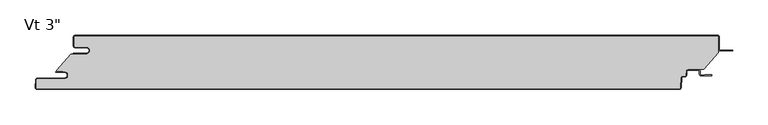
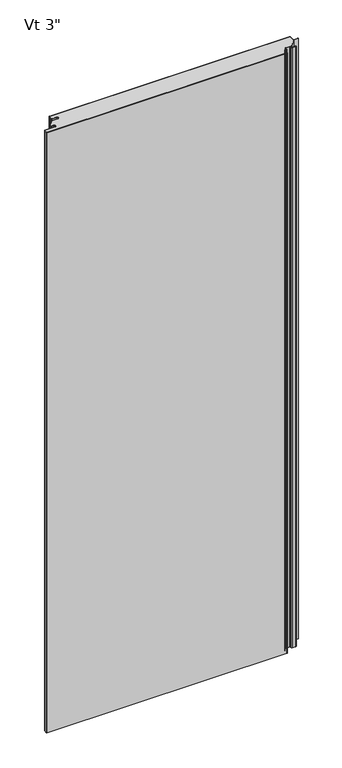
"""IFC4 building model written with IfcOpenShell, lengths in millimetres: plate geometry."""

from ifc_helpers import new_model, si_unit, point, frame, frame_2d, origin, origin_with_axes, place, context, project, spatial, polyline, circle_curve, ellipse_curve, trimmed, segment, composite_curve, outline, extrude, source, transform, mapped, element, save
from ifc_brep_helpers import plane_surface, cylinder_surface, revolved_surface, extruded_surface, advanced_brep


def plate_b2574253(model_context):
    return source(origin(), model_context, "Body", "SolidModel", [
        extrude(outline(composite_curve([segment(polyline([(-438.14375, -16.4625), (-454.01875, -16.4625)]), True, "CONTINUOUS"), segment(trimmed(circle_curve(frame_2d((-454.01875, -15.08125)), 1.38125), [point((-454.01875, -16.4625))], [point((-455.4, -15.08125))], False, "CARTESIAN"), True, "CONTINUOUS"), segment(polyline([(-455.4, -15.08125), (-455.4, -2.38125)]), True, "CONTINUOUS"), segment(trimmed(circle_curve(frame_2d((-454.01875, -2.38125)), 1.38125), [point((-455.4, -2.38125))], [point((-454.01875, -1.0))], False, "CARTESIAN"), True, "CONTINUOUS"), segment(polyline([(-454.01875, -1.0), (454.03125, -1.0)]), True, "CONTINUOUS"), segment(trimmed(circle_curve(frame_2d((454.03125, -2.38125)), 1.38125), [point((454.03125, -1.0))], [point((455.4125, -2.38125))], False, "CARTESIAN"), True, "CONTINUOUS"), segment(polyline([(455.4125, -2.38125), (455.4125, -24.9057308), (434.5955434, -48.2125), (412.1540783, -48.2125)]), True, "CONTINUOUS"), segment(trimmed(circle_curve(frame_2d((412.1540783, -50.8)), 2.5875), [point((412.1540783, -48.2125))], [point((409.5701244, -50.6645807))], True, "CARTESIAN"), True, "CONTINUOUS"), segment(polyline([(409.5701244, -50.6645807), (409.2680481, -56.428539)]), True, "CONTINUOUS"), segment(trimmed(circle_curve(frame_2d((407.8886911, -56.35625)), 1.38125), [point((409.2680481, -56.428539))], [point((407.8886911, -57.7375))], False, "CARTESIAN"), True, "CONTINUOUS"), segment(polyline([(407.8886911, -57.7375), (404.8448847, -57.7375)]), True, "CONTINUOUS"), segment(trimmed(circle_curve(frame_2d((404.8448847, -60.325)), 2.5875), [point((404.8448847, -57.7375))], [point((402.2609307, -60.1895807))], True, "CARTESIAN"), True, "CONTINUOUS"), segment(polyline([(402.2609307, -60.1895807), (401.5428677, -73.891039)]), True, "CONTINUOUS"), segment(trimmed(circle_curve(frame_2d((400.1635107, -73.81875)), 1.38125), [point((401.5428677, -73.891039))], [point((400.1635107, -75.2))], False, "CARTESIAN"), True, "CONTINUOUS"), segment(polyline([(400.1635107, -75.2), (-507.8799535, -75.2)]), True, "CONTINUOUS"), segment(trimmed(circle_curve(frame_2d((-507.8799535, -73.81875)), 1.38125), [point((-507.8799535, -75.2))], [point((-509.2593106, -73.746461))], False, "CARTESIAN"), True, "CONTINUOUS"), segment(polyline([(-509.2593106, -73.746461), (-508.6769291, -62.633961)]), True, "CONTINUOUS"), segment(trimmed(circle_curve(frame_2d((-507.2975721, -62.70625)), 1.38125), [point((-508.6769291, -62.633961))], [point((-507.2975721, -61.325))], False, "CARTESIAN"), True, "CONTINUOUS"), segment(polyline([(-507.2975721, -61.325), (-469.1142674, -61.325)]), True, "CONTINUOUS"), segment(trimmed(circle_curve(frame_2d((-469.1142674, -56.35625)), 4.96875), [point((-469.1142674, -61.325))], [point((-469.1142674, -51.3875))], True, "CARTESIAN"), True, "CONTINUOUS"), segment(polyline([(-469.1142674, -51.3875), (-470.7017674, -51.59375), (-470.7017674, -50.8), (-480.2125, -50.8), (-480.2125, -49.2157227), (-460.3260922, -26.4), (-438.14375, -26.4)]), True, "CONTINUOUS"), segment(trimmed(circle_curve(frame_2d((-438.14375, -21.43125)), 4.96875), [point((-438.14375, -26.4))], [point((-438.14375, -16.4625))], True, "CARTESIAN"), True, "CONTINUOUS")], self_intersect=False)), origin_with_axes(), (0.0, 0.0, 1.0), 2400.0),
        extrude(outline(composite_curve([segment(polyline([(-456.4, -25.4), (-438.14375, -25.4)]), True, "CONTINUOUS"), segment(trimmed(circle_curve(frame_2d((-438.14375, -21.43125)), 3.96875), [point((-438.14375, -25.4))], [point((-438.14375, -17.4625))], True, "CARTESIAN"), True, "CONTINUOUS"), segment(polyline([(-438.14375, -17.4625), (-454.01875, -17.4625)]), True, "CONTINUOUS"), segment(trimmed(circle_curve(frame_2d((-454.01875, -15.08125)), 2.38125), [point((-454.01875, -17.4625))], [point((-456.4, -15.08125))], False, "CARTESIAN"), True, "CONTINUOUS"), segment(polyline([(-456.4, -15.08125), (-456.4, -2.38125)]), True, "CONTINUOUS"), segment(trimmed(circle_curve(frame_2d((-454.01875, -2.38125)), 2.38125), [point((-456.4, -2.38125))], [point((-454.01875, 0.0))], False, "CARTESIAN"), True, "CONTINUOUS"), segment(polyline([(-454.01875, 0.0), (454.03125, 0.0)]), True, "CONTINUOUS"), segment(trimmed(circle_curve(frame_2d((454.03125, -2.38125)), 2.38125), [point((454.03125, 0.0))], [point((456.4125, -2.38125))], False, "CARTESIAN"), True, "CONTINUOUS"), segment(polyline([(456.4125, -2.38125), (456.4125, -19.446875)]), True, "CONTINUOUS"), segment(trimmed(circle_curve(frame_2d((458.0, -19.446875)), 1.5875), [point((456.4125, -19.446875))], [point((458.0, -21.034375))], True, "CARTESIAN"), True, "CONTINUOUS"), segment(polyline([(458.0, -21.034375), (475.4625, -21.034375), (475.4625, -22.034375), (458.0, -22.034375)]), True, "CONTINUOUS"), segment(trimmed(circle_curve(frame_2d((458.0, -19.446875)), 2.5875), [point((458.0, -22.034375))], [point((455.4125, -19.446875))], False, "CARTESIAN"), True, "CONTINUOUS"), segment(polyline([(455.4125, -19.446875), (455.4125, -2.38125)]), True, "CONTINUOUS"), segment(trimmed(circle_curve(frame_2d((454.03125, -2.38125)), 1.38125), [point((455.4125, -2.38125))], [point((454.03125, -1.0))], True, "CARTESIAN"), True, "CONTINUOUS"), segment(polyline([(454.03125, -1.0), (-454.01875, -1.0)]), True, "CONTINUOUS"), segment(trimmed(circle_curve(frame_2d((-454.01875, -2.38125)), 1.38125), [point((-454.01875, -1.0))], [point((-455.4, -2.38125))], True, "CARTESIAN"), True, "CONTINUOUS"), segment(polyline([(-455.4, -2.38125), (-455.4, -15.08125)]), True, "CONTINUOUS"), segment(trimmed(circle_curve(frame_2d((-454.01875, -15.08125)), 1.38125), [point((-455.4, -15.08125))], [point((-454.01875, -16.4625))], True, "CARTESIAN"), True, "CONTINUOUS"), segment(polyline([(-454.01875, -16.4625), (-438.14375, -16.4625)]), True, "CONTINUOUS"), segment(trimmed(circle_curve(frame_2d((-438.14375, -21.43125)), 4.96875), [point((-438.14375, -16.4625))], [point((-438.14375, -26.4))], False, "CARTESIAN"), True, "CONTINUOUS"), segment(polyline([(-438.14375, -26.4), (-456.4, -26.4), (-456.4, -25.4)]), True, "CONTINUOUS")], self_intersect=False)), origin_with_axes(), (0.0, 0.0, 1.0), 2400.0),
        advanced_brep(
        [(-480.4252049, -50.8, 2400.0), (-480.4252049, -52.3875, 2400.0), (-469.1142674, -52.3875, 2400.0), (-469.1142674, -60.325, 2400.0), (-507.2975721, -60.325, 2400.0), (-509.6755586, -62.581625, 2400.0), (-510.2579401, -73.694125, 2400.0), (-507.8799535, -76.2, 2400.0), (400.1635107, -76.2, 2400.0), (402.5414973, -73.943375, 2400.0), (403.2595603, -60.2419167, 2400.0), (404.8448847, -58.7375, 2400.0), (407.8886911, -58.7375, 2400.0), (410.2666776, -56.480875, 2400.0), (410.5687539, -50.7169167, 2400.0), (412.1540783, -49.2125, 2400.0), (427.0294826, -49.2125, 2400.0), (428.6169826, -50.8, 2400.0), (428.6169826, -54.9671875, 2400.0), (430.9982326, -57.3484375, 2400.0), (445.4898532, -57.3484375, 2400.0), (445.4898532, -55.5546875, 2400.0), (435.7607326, -55.5546875, 2400.0), (435.7607326, -56.3484375, 2400.0), (430.9982326, -56.3484375, 2400.0), (429.6169826, -54.9671875, 2400.0), (429.6169826, -50.8, 2400.0), (427.0294826, -48.2125, 2400.0), (412.1540783, -48.2125, 2400.0), (409.5701244, -50.6645807, 2400.0), (409.2680481, -56.428539, 2400.0), (407.8886911, -57.7375, 2400.0), (404.8448847, -57.7375, 2400.0), (402.2609307, -60.1895807, 2400.0), (401.5428677, -73.891039, 2400.0), (400.1635107, -75.2, 2400.0), (-507.8799535, -75.2, 2400.0), (-509.2593106, -73.746461, 2400.0), (-508.6769291, -62.633961, 2400.0), (-507.2975721, -61.325, 2400.0), (-469.1142674, -61.325, 2400.0), (-469.1142674, -51.3875, 2400.0), (-470.7017674, -51.59375, 2400.0), (-470.7017674, -50.8, 2400.0), (-480.4252049, -50.8, 0.0), (-470.7017674, -50.8, 0.0), (-470.7017674, -51.59375, 0.0), (-469.1142674, -51.3875, 0.0), (-469.1142674, -61.325, 0.0), (-507.2975721, -61.325, 0.0), (-508.6769291, -62.633961, 0.0), (-509.2593106, -73.746461, 0.0), (-507.8799535, -75.2, 0.0), (400.1635107, -75.2, 0.0), (401.5428677, -73.891039, 0.0), (402.2609307, -60.1895807, 0.0), (404.8448847, -57.7375, 0.0), (407.8886911, -57.7375, 0.0), (409.2680481, -56.428539, 0.0), (409.5701244, -50.6645807, 0.0), (412.1540783, -48.2125, 0.0), (427.0294826, -48.2125, 0.0), (429.6169826, -50.8, 0.0), (429.6169826, -54.9671875, 0.0), (430.9982326, -56.3484375, 0.0), (435.7607326, -56.3484375, 0.0), (435.7607326, -55.5546875, 0.0), (445.4898532, -55.5546875, 0.0), (445.4898532, -57.3484375, 0.0), (430.9982326, -57.3484375, 0.0), (428.6169826, -54.9671875, 0.0), (428.6169826, -50.8, 0.0), (427.0294826, -49.2125, 0.0), (412.1540783, -49.2125, 0.0), (410.5687539, -50.7169167, 0.0), (410.2666776, -56.480875, 0.0), (407.8886911, -58.7375, 0.0), (404.8448847, -58.7375, 0.0), (403.2595603, -60.2419167, 0.0), (402.5414973, -73.943375, 0.0), (400.1635107, -76.2, 0.0), (-507.8799535, -76.2, 0.0), (-510.2579401, -73.694125, 0.0), (-509.6755586, -62.581625, 0.0), (-507.2975721, -60.325, 0.0), (-469.1142674, -60.325, 0.0), (-469.1142674, -52.3875, 0.0), (-480.4252049, -52.3875, 0.0)],
        [
            (0, 1, circle_curve(frame((-480.4252049, -51.59375, 2400.0), z_axis=(0.0, 0.0, 1.0), x_axis=(1.0, 0.0, 0.0)), 0.79375)),
            (1, 2),
            (2, 3, circle_curve(frame((-469.1142674, -56.35625, 2400.0), z_axis=(0.0, 0.0, -1.0), x_axis=(1.0, 0.0, 0.0)), 3.96875)),
            (3, 4),
            (4, 5, circle_curve(frame((-507.2975721, -62.70625, 2400.0), z_axis=(0.0, 0.0, 1.0), x_axis=(1.0, 0.0, 0.0)), 2.38125)),
            (5, 6),
            (6, 7, circle_curve(frame((-507.8799535, -73.81875, 2400.0), z_axis=(0.0, 0.0, 1.0), x_axis=(1.0, 0.0, 0.0)), 2.38125)),
            (7, 8),
            (8, 9, circle_curve(frame((400.1635107, -73.81875, 2400.0), z_axis=(0.0, 0.0, 1.0), x_axis=(1.0, 0.0, 0.0)), 2.38125)),
            (9, 10),
            (10, 11, circle_curve(frame((404.8448847, -60.325, 2400.0), z_axis=(0.0, 0.0, -1.0), x_axis=(1.0, 0.0, 0.0)), 1.5875)),
            (11, 12),
            (12, 13, circle_curve(frame((407.8886911, -56.35625, 2400.0), z_axis=(0.0, 0.0, 1.0), x_axis=(1.0, 0.0, 0.0)), 2.38125)),
            (13, 14),
            (14, 15, circle_curve(frame((412.1540783, -50.8, 2400.0), z_axis=(0.0, 0.0, -1.0), x_axis=(1.0, 0.0, 0.0)), 1.5875)),
            (15, 16),
            (16, 17, circle_curve(frame((427.0294826, -50.8, 2400.0), z_axis=(0.0, 0.0, -1.0), x_axis=(1.0, 0.0, 0.0)), 1.5875)),
            (17, 18),
            (18, 19, circle_curve(frame((430.9982326, -54.9671875, 2400.0), z_axis=(0.0, 0.0, 1.0), x_axis=(1.0, 0.0, 0.0)), 2.38125)),
            (19, 20),
            (20, 21, ellipse_curve(frame((445.4898532, -56.4515625, 2400.0), z_axis=(0.0, 0.0, 1.0), x_axis=(0.0, 1.0, 0.0)), 0.896875, 0.7852275)),
            (21, 22),
            (22, 23),
            (23, 24),
            (24, 25, circle_curve(frame((430.9982326, -54.9671875, 2400.0), z_axis=(0.0, 0.0, -1.0), x_axis=(1.0, 0.0, 0.0)), 1.38125)),
            (25, 26),
            (26, 27, circle_curve(frame((427.0294826, -50.8, 2400.0), z_axis=(0.0, 0.0, 1.0), x_axis=(1.0, 0.0, 0.0)), 2.5875)),
            (27, 28),
            (28, 29, circle_curve(frame((412.1540783, -50.8, 2400.0), z_axis=(0.0, 0.0, 1.0), x_axis=(1.0, 0.0, 0.0)), 2.5875)),
            (29, 30),
            (30, 31, circle_curve(frame((407.8886911, -56.35625, 2400.0), z_axis=(0.0, 0.0, -1.0), x_axis=(1.0, 0.0, 0.0)), 1.38125)),
            (31, 32),
            (32, 33, circle_curve(frame((404.8448847, -60.325, 2400.0), z_axis=(0.0, 0.0, 1.0), x_axis=(1.0, 0.0, 0.0)), 2.5875)),
            (33, 34),
            (34, 35, circle_curve(frame((400.1635107, -73.81875, 2400.0), z_axis=(0.0, 0.0, -1.0), x_axis=(1.0, 0.0, 0.0)), 1.38125)),
            (35, 36),
            (36, 37, circle_curve(frame((-507.8799535, -73.81875, 2400.0), z_axis=(0.0, 0.0, -1.0), x_axis=(1.0, 0.0, 0.0)), 1.38125)),
            (37, 38),
            (38, 39, circle_curve(frame((-507.2975721, -62.70625, 2400.0), z_axis=(0.0, 0.0, -1.0), x_axis=(1.0, 0.0, 0.0)), 1.38125)),
            (39, 40),
            (40, 41, circle_curve(frame((-469.1142674, -56.35625, 2400.0), z_axis=(0.0, 0.0, 1.0), x_axis=(1.0, 0.0, 0.0)), 4.96875)),
            (41, 42),
            (42, 43),
            (43, 0),
            (44, 45),
            (45, 46),
            (46, 47),
            (47, 48, circle_curve(frame((-469.1142674, -56.35625, 0.0), z_axis=(0.0, 0.0, -1.0), x_axis=(1.0, 0.0, 0.0)), 4.96875)),
            (48, 49),
            (49, 50, circle_curve(frame((-507.2975721, -62.70625, 0.0), z_axis=(0.0, 0.0, 1.0), x_axis=(1.0, 0.0, 0.0)), 1.38125)),
            (50, 51),
            (51, 52, circle_curve(frame((-507.8799535, -73.81875, 0.0), z_axis=(0.0, 0.0, 1.0), x_axis=(1.0, 0.0, 0.0)), 1.38125)),
            (52, 53),
            (53, 54, circle_curve(frame((400.1635107, -73.81875, 0.0), z_axis=(0.0, 0.0, 1.0), x_axis=(1.0, 0.0, 0.0)), 1.38125)),
            (54, 55),
            (55, 56, circle_curve(frame((404.8448847, -60.325, 0.0), z_axis=(0.0, 0.0, -1.0), x_axis=(1.0, 0.0, 0.0)), 2.5875)),
            (56, 57),
            (57, 58, circle_curve(frame((407.8886911, -56.35625, 0.0), z_axis=(0.0, 0.0, 1.0), x_axis=(1.0, 0.0, 0.0)), 1.38125)),
            (58, 59),
            (59, 60, circle_curve(frame((412.1540783, -50.8, 0.0), z_axis=(0.0, 0.0, -1.0), x_axis=(1.0, 0.0, 0.0)), 2.5875)),
            (60, 61),
            (61, 62, circle_curve(frame((427.0294826, -50.8, 0.0), z_axis=(0.0, 0.0, -1.0), x_axis=(1.0, 0.0, 0.0)), 2.5875)),
            (62, 63),
            (63, 64, circle_curve(frame((430.9982326, -54.9671875, 0.0), z_axis=(0.0, 0.0, 1.0), x_axis=(1.0, 0.0, 0.0)), 1.38125)),
            (64, 65),
            (65, 66),
            (66, 67),
            (67, 68, ellipse_curve(frame((445.4898532, -56.4515625, 0.0), z_axis=(0.0, 0.0, -1.0), x_axis=(0.0, 1.0, 0.0)), 0.896875, 0.7852275)),
            (68, 69),
            (69, 70, circle_curve(frame((430.9982326, -54.9671875, 0.0), z_axis=(0.0, 0.0, -1.0), x_axis=(1.0, 0.0, 0.0)), 2.38125)),
            (70, 71),
            (71, 72, circle_curve(frame((427.0294826, -50.8, 0.0), z_axis=(0.0, 0.0, 1.0), x_axis=(1.0, 0.0, 0.0)), 1.5875)),
            (72, 73),
            (73, 74, circle_curve(frame((412.1540783, -50.8, 0.0), z_axis=(0.0, 0.0, 1.0), x_axis=(1.0, 0.0, 0.0)), 1.5875)),
            (74, 75),
            (75, 76, circle_curve(frame((407.8886911, -56.35625, 0.0), z_axis=(0.0, 0.0, -1.0), x_axis=(1.0, 0.0, 0.0)), 2.38125)),
            (76, 77),
            (77, 78, circle_curve(frame((404.8448847, -60.325, 0.0), z_axis=(0.0, 0.0, 1.0), x_axis=(1.0, 0.0, 0.0)), 1.5875)),
            (78, 79),
            (79, 80, circle_curve(frame((400.1635107, -73.81875, 0.0), z_axis=(0.0, 0.0, -1.0), x_axis=(1.0, 0.0, 0.0)), 2.38125)),
            (80, 81),
            (81, 82, circle_curve(frame((-507.8799535, -73.81875, 0.0), z_axis=(0.0, 0.0, -1.0), x_axis=(1.0, 0.0, 0.0)), 2.38125)),
            (82, 83),
            (83, 84, circle_curve(frame((-507.2975721, -62.70625, 0.0), z_axis=(0.0, 0.0, -1.0), x_axis=(1.0, 0.0, 0.0)), 2.38125)),
            (84, 85),
            (85, 86, circle_curve(frame((-469.1142674, -56.35625, 0.0), z_axis=(0.0, 0.0, 1.0), x_axis=(1.0, 0.0, 0.0)), 3.96875)),
            (86, 87),
            (87, 44, circle_curve(frame((-480.4252049, -51.59375, 0.0), z_axis=(0.0, 0.0, -1.0), x_axis=(1.0, 0.0, 0.0)), 0.79375)),
            (20, 68),
            (67, 21),
            (66, 22),
            (65, 23),
            (41, 47),
            (46, 42),
            (45, 43),
            (40, 48),
            (39, 49),
            (38, 50),
            (37, 51),
            (33, 55),
            (54, 34),
            (32, 56),
            (31, 57),
            (30, 58),
            (29, 59),
            (28, 60),
            (64, 24),
            (63, 25),
            (62, 26),
            (61, 27),
            (18, 70),
            (69, 19),
            (17, 71),
            (16, 72),
            (15, 73),
            (14, 74),
            (13, 75),
            (12, 76),
            (11, 77),
            (10, 78),
            (9, 79),
            (5, 83),
            (82, 6),
            (4, 84),
            (3, 85),
            (2, 86),
            (1, 87),
            (0, 44),
            (36, 52),
            (35, 53),
            (8, 80),
            (7, 81),
        ],
        [
            plane_surface(frame((0.00625, -76.2, 2400.0), z_axis=(0.0, 0.0, 1.0), x_axis=(0.0, -1.0, 0.0))),
            plane_surface(frame((0.00625, -76.2, 0.0), z_axis=(0.0, 0.0, -1.0), x_axis=(0.0, -1.0, 0.0))),
            extruded_surface(trimmed(ellipse_curve(frame((445.4898532, -56.4515625, 2400.0), z_axis=(0.0, 0.0, -1.0), x_axis=(0.0, 1.0, 0.0)), 0.896875, 0.7852275), [point((445.4898532, -55.5546875, 2400.0))], [point((445.4898532, -57.3484375, 2400.0))], True, "CARTESIAN"), (0.0, 0.0, -2400.0), 2400.0),
            plane_surface(frame((435.7607326, -55.5546875, 2400.0), z_axis=(0.0, 1.0, 0.0), x_axis=(0.0, 0.0, -1.0))),
            plane_surface(frame((435.7607326, -56.3484375, 2400.0), z_axis=(-1.0, 0.0, 0.0), x_axis=(0.0, 0.0, -1.0))),
            plane_surface(frame((-470.7017674, -51.59375, 2400.0), z_axis=(-0.12883844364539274, 0.9916655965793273, 0.0), x_axis=(0.0, 0.0, -1.0))),
            plane_surface(frame((-470.7017674, -50.8, 2400.0), z_axis=(1.0, 0.0, 0.0), x_axis=(0.0, 0.0, -1.0))),
            cylinder_surface(frame((-469.1142674, -56.35625, 2400.0), z_axis=(0.0, 0.0, 1.0), x_axis=(1.0, 0.0, 0.0)), 4.96875),
            plane_surface(frame((-469.1142674, -61.325, 2400.0), z_axis=(0.0, -1.0, 0.0), x_axis=(0.0, 0.0, -1.0))),
            revolved_surface(polyline([(-505.9163221, -62.70625, 0.0), (-505.9163221, -62.70625, 2400.0)]), (-507.2975721, -62.70625, 2400.0), (0.0, 0.0, -1.0)),
            plane_surface(frame((-508.6769291, -62.633961, 2400.0), z_axis=(0.9986295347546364, -0.05233595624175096, 0.0), x_axis=(0.0, 0.0, -1.0))),
            plane_surface(frame((401.5428677, -73.891039, 2400.0), z_axis=(-0.9986295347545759, 0.05233595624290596, 0.0), x_axis=(0.0, 0.0, -1.0))),
            cylinder_surface(frame((404.8448847, -60.325, 2400.0), z_axis=(0.0, 0.0, 1.0), x_axis=(1.0, 0.0, 0.0)), 2.5875),
            plane_surface(frame((404.8448847, -57.7375, 2400.0), z_axis=(0.0, 1.0, 0.0), x_axis=(0.0, 0.0, -1.0))),
            revolved_surface(polyline([(409.26994110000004, -56.35625, 0.0), (409.26994110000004, -56.35625, 2400.0)]), (407.8886911, -56.35625, 2400.0), (0.0, 0.0, -1.0)),
            plane_surface(frame((409.2680481, -56.428539, 2400.0), z_axis=(-0.998629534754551, 0.05233595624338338, 0.0), x_axis=(0.0, 0.0, -1.0))),
            cylinder_surface(frame((412.1540783, -50.8, 2400.0), z_axis=(0.0, 0.0, 1.0), x_axis=(1.0, 0.0, 0.0)), 2.5875),
            plane_surface(frame((430.9982326, -56.3484375, 2400.0), z_axis=(0.0, 1.0, 0.0), x_axis=(0.0, 0.0, -1.0))),
            revolved_surface(polyline([(432.3794826, -54.9671875, 0.0), (432.3794826, -54.9671875, 2400.0)]), (430.9982326, -54.9671875, 2400.0), (0.0, 0.0, -1.0)),
            plane_surface(frame((429.6169826, -50.8, 2400.0), z_axis=(1.0, 0.0, 0.0), x_axis=(0.0, 0.0, -1.0))),
            cylinder_surface(frame((427.0294826, -50.8, 2400.0), z_axis=(0.0, 0.0, 1.0), x_axis=(1.0, 0.0, 0.0)), 2.5875),
            plane_surface(frame((412.1540783, -48.2125, 2400.0), z_axis=(0.0, 1.0, 0.0), x_axis=(0.0, 0.0, -1.0))),
            cylinder_surface(frame((430.9982326, -54.9671875, 2400.0), z_axis=(0.0, 0.0, 1.0), x_axis=(1.0, 0.0, 0.0)), 2.38125),
            plane_surface(frame((428.6169826, -54.9671875, 2400.0), z_axis=(-1.0, 0.0, 0.0), x_axis=(0.0, 0.0, -1.0))),
            revolved_surface(polyline([(428.6169826, -50.8, 0.0), (428.6169826, -50.8, 2400.0)]), (427.0294826, -50.8, 2400.0), (0.0, 0.0, -1.0)),
            plane_surface(frame((427.0294826, -49.2125, 2400.0), z_axis=(0.0, -1.0, 0.0), x_axis=(0.0, 0.0, -1.0))),
            revolved_surface(polyline([(413.74157829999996, -50.8, 0.0), (413.74157829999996, -50.8, 2400.0)]), (412.1540783, -50.8, 2400.0), (0.0, 0.0, -1.0)),
            plane_surface(frame((410.5687539, -50.7169167, 2400.0), z_axis=(0.9986295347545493, -0.05233595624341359, 0.0), x_axis=(0.0, 0.0, -1.0))),
            cylinder_surface(frame((407.8886911, -56.35625, 2400.0), z_axis=(0.0, 0.0, 1.0), x_axis=(1.0, 0.0, 0.0)), 2.38125),
            plane_surface(frame((407.8886911, -58.7375, 2400.0), z_axis=(0.0, -1.0, 0.0), x_axis=(0.0, 0.0, -1.0))),
            revolved_surface(polyline([(406.4323847, -60.325, 0.0), (406.4323847, -60.325, 2400.0)]), (404.8448847, -60.325, 2400.0), (0.0, 0.0, -1.0)),
            plane_surface(frame((403.2595603, -60.2419167, 2400.0), z_axis=(0.9986295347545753, -0.052335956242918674, 0.0), x_axis=(0.0, 0.0, -1.0))),
            plane_surface(frame((-510.2579401, -73.694125, 2400.0), z_axis=(-0.9986295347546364, 0.05233595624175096, 0.0), x_axis=(0.0, 0.0, -1.0))),
            cylinder_surface(frame((-507.2975721, -62.70625, 2400.0), z_axis=(0.0, 0.0, 1.0), x_axis=(1.0, 0.0, 0.0)), 2.38125),
            plane_surface(frame((-507.2975721, -60.325, 2400.0), z_axis=(0.0, 1.0, 0.0), x_axis=(0.0, 0.0, -1.0))),
            revolved_surface(polyline([(-465.1455174, -56.35625, 0.0), (-465.1455174, -56.35625, 2400.0)]), (-469.1142674, -56.35625, 2400.0), (0.0, 0.0, -1.0)),
            plane_surface(frame((-469.1142674, -52.3875, 2400.0), z_axis=(0.0, -1.0, 0.0), x_axis=(0.0, 0.0, -1.0))),
            cylinder_surface(frame((-480.4252049, -51.59375, 2400.0), z_axis=(0.0, 0.0, 1.0), x_axis=(1.0, 0.0, 0.0)), 0.79375),
            plane_surface(frame((-480.4252049, -50.8, 2400.0), z_axis=(0.0, 1.0, 0.0), x_axis=(0.0, 0.0, -1.0))),
            revolved_surface(polyline([(-506.4987035, -73.81875, 0.0), (-506.4987035, -73.81875, 2400.0)]), (-507.8799535, -73.81875, 2400.0), (0.0, 0.0, -1.0)),
            plane_surface(frame((-507.8799535, -75.2, 2400.0), z_axis=(0.0, 1.0, 0.0), x_axis=(0.0, 0.0, -1.0))),
            revolved_surface(polyline([(401.54476070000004, -73.81875, 0.0), (401.54476070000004, -73.81875, 2400.0)]), (400.1635107, -73.81875, 2400.0), (0.0, 0.0, -1.0)),
            plane_surface(frame((445.4898532, -57.3484375, 2400.0), z_axis=(0.0, -1.0, 0.0), x_axis=(0.0, 0.0, -1.0))),
            cylinder_surface(frame((400.1635107, -73.81875, 2400.0), z_axis=(0.0, 0.0, 1.0), x_axis=(1.0, 0.0, 0.0)), 2.38125),
            plane_surface(frame((400.1635107, -76.2, 2400.0), z_axis=(0.0, -1.0, 0.0), x_axis=(0.0, 0.0, -1.0))),
            cylinder_surface(frame((-507.8799535, -73.81875, 2400.0), z_axis=(0.0, 0.0, 1.0), x_axis=(1.0, 0.0, 0.0)), 2.38125),
        ],
        [
            (0, [[1, 2, 3, 4, 5, 6, 7, 8, 9, 10, 11, 12, 13, 14, 15, 16, 17, 18, 19, 20, 21, 22, 23, 24, 25, 26, 27, 28, 29, 30, 31, 32, 33, 34, 35, 36, 37, 38, 39, 40, 41, 42, 43, 44]]),
            (1, [[45, 46, 47, 48, 49, 50, 51, 52, 53, 54, 55, 56, 57, 58, 59, 60, 61, 62, 63, 64, 65, 66, 67, 68, 69, 70, 71, 72, 73, 74, 75, 76, 77, 78, 79, 80, 81, 82, 83, 84, 85, 86, 87, 88]]),
            (2, [[89, -68, 90, -21]]),
            (3, [[-90, -67, 91, -22]]),
            (4, [[-91, -66, 92, -23]]),
            (5, [[93, -47, 94, -42]]),
            (6, [[-94, -46, 95, -43]]),
            (7, [[96, -48, -93, -41]]),
            (8, [[97, -49, -96, -40]]),
            (9, [[98, -50, -97, -39]]),
            (10, [[99, -51, -98, -38]]),
            (11, [[100, -55, 101, -34]]),
            (12, [[102, -56, -100, -33]]),
            (13, [[103, -57, -102, -32]]),
            (14, [[104, -58, -103, -31]]),
            (15, [[105, -59, -104, -30]]),
            (16, [[106, -60, -105, -29]]),
            (17, [[-92, -65, 107, -24]]),
            (18, [[-107, -64, 108, -25]]),
            (19, [[-108, -63, 109, -26]]),
            (20, [[-109, -62, 110, -27]]),
            (21, [[-110, -61, -106, -28]]),
            (22, [[111, -70, 112, -19]]),
            (23, [[113, -71, -111, -18]]),
            (24, [[114, -72, -113, -17]]),
            (25, [[115, -73, -114, -16]]),
            (26, [[116, -74, -115, -15]]),
            (27, [[117, -75, -116, -14]]),
            (28, [[118, -76, -117, -13]]),
            (29, [[119, -77, -118, -12]]),
            (30, [[120, -78, -119, -11]]),
            (31, [[121, -79, -120, -10]]),
            (32, [[122, -83, 123, -6]]),
            (33, [[124, -84, -122, -5]]),
            (34, [[125, -85, -124, -4]]),
            (35, [[126, -86, -125, -3]]),
            (36, [[127, -87, -126, -2]]),
            (37, [[128, -88, -127, -1]]),
            (38, [[-95, -45, -128, -44]]),
            (39, [[129, -52, -99, -37]]),
            (40, [[130, -53, -129, -36]]),
            (41, [[-101, -54, -130, -35]]),
            (42, [[-112, -69, -89, -20]]),
            (43, [[131, -80, -121, -9]]),
            (44, [[132, -81, -131, -8]]),
            (45, [[-123, -82, -132, -7]]),
        ],
    ),
    ])


if __name__ == "__main__":
    model = new_model("IFC4")
    model_context = context("Model", 3, world=origin())
    ifc_project = project(units=[si_unit("LENGTHUNIT", "METRE", prefix="MILLI")], contexts=[model_context])
    site = spatial("IfcSite", under=ifc_project)
    building = spatial("IfcBuilding", under=site)
    placement = place(None, origin())
    plate_shape = plate_b2574253(model_context)
    element("IfcPlate", 1, ObjectType="KIP-36-DWTR-R19-CP-Vt-F : Vt 3\"", at=placement, inside=building, context=model_context, shape_type="MappedRepresentation", body=[
        mapped(plate_shape, transform((0.0, 0.0, 0.0), x_axis=(1.0, 0.0, 0.0), y_axis=(0.0, 1.0, 0.0), z_axis=(0.0, 0.0, 1.0))),
    ])
    save(model, "model.ifc")
